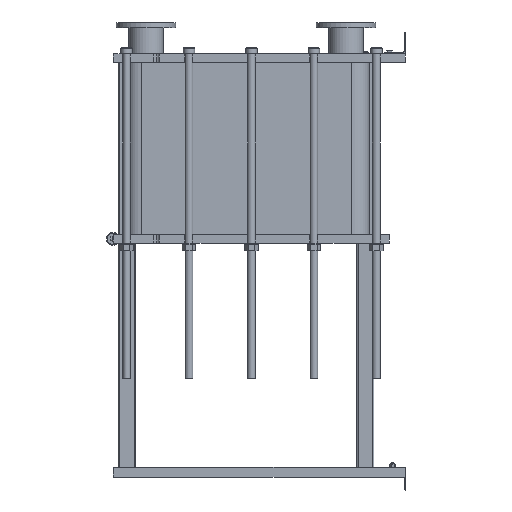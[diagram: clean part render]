
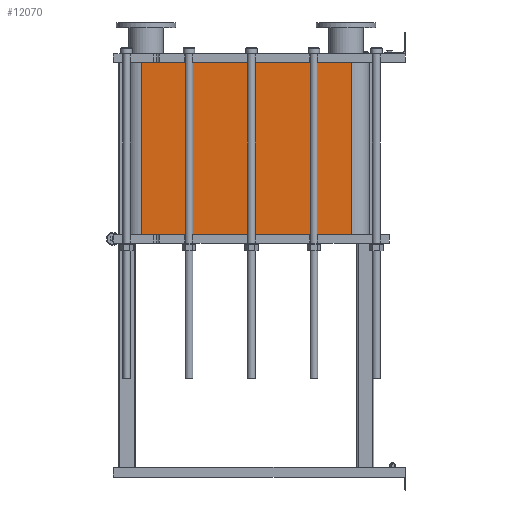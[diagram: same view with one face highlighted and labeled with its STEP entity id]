
A CAD part, left-side view. The second image highlights one B-rep face of the part: STEP entity #12070.
In plain terms, the highlighted planar face has unit normal (-1, 0, 0).
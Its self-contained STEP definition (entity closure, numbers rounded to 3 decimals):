
#1064=LINE('',#21140,#2164);
#1065=LINE('',#21144,#2165);
#1066=LINE('',#21146,#2166);
#1067=LINE('',#21147,#2167);
#2164=VECTOR('',#15790,10.);
#2165=VECTOR('',#15795,10.);
#2166=VECTOR('',#15796,10.);
#2167=VECTOR('',#15797,10.);
#3304=FACE_OUTER_BOUND('',#4091,.T.);
#4091=EDGE_LOOP('',(#9793,#9794,#9795,#9796));
#5677=VERTEX_POINT('',#21137);
#5678=VERTEX_POINT('',#21139);
#5679=VERTEX_POINT('',#21143);
#5680=VERTEX_POINT('',#21145);
#7118=EDGE_CURVE('',#5678,#5677,#1064,.T.);
#7120=EDGE_CURVE('',#5677,#5679,#1065,.T.);
#7121=EDGE_CURVE('',#5680,#5679,#1066,.T.);
#7122=EDGE_CURVE('',#5680,#5678,#1067,.T.);
#9793=ORIENTED_EDGE('',*,*,#7120,.T.);
#9794=ORIENTED_EDGE('',*,*,#7121,.F.);
#9795=ORIENTED_EDGE('',*,*,#7122,.T.);
#9796=ORIENTED_EDGE('',*,*,#7118,.T.);
#11441=PLANE('',#13191);
#12070=ADVANCED_FACE('',(#3304),#11441,.T.);
#13191=AXIS2_PLACEMENT_3D('',#21142,#15793,#15794);
#15790=DIRECTION('',(0.,0.,-1.));
#15793=DIRECTION('center_axis',(-1.,0.,0.));
#15794=DIRECTION('ref_axis',(0.,1.,0.));
#15795=DIRECTION('',(0.,-1.,0.));
#15796=DIRECTION('',(0.,0.,-1.));
#15797=DIRECTION('',(0.,1.,0.));
#21137=CARTESIAN_POINT('',(-248.152,1243.818,-810.75));
#21139=CARTESIAN_POINT('',(-248.152,1243.818,0.));
#21140=CARTESIAN_POINT('',(-248.152,1243.818,0.));
#21142=CARTESIAN_POINT('Origin',(-248.152,251.818,0.));
#21143=CARTESIAN_POINT('',(-248.152,251.818,-810.75));
#21144=CARTESIAN_POINT('',(-248.152,499.818,-810.75));
#21145=CARTESIAN_POINT('',(-248.152,251.818,0.));
#21146=CARTESIAN_POINT('',(-248.152,251.818,0.));
#21147=CARTESIAN_POINT('',(-248.152,251.818,0.));
